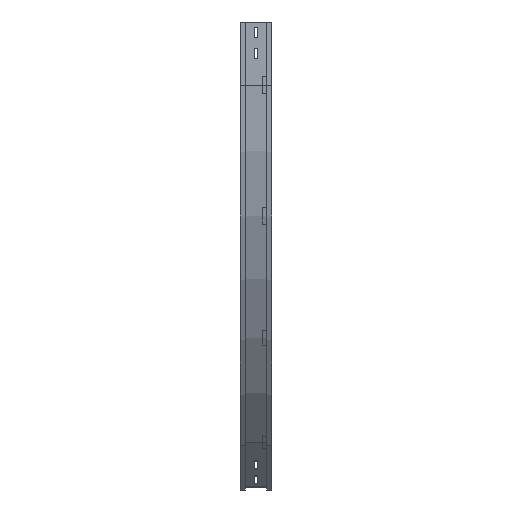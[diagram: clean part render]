
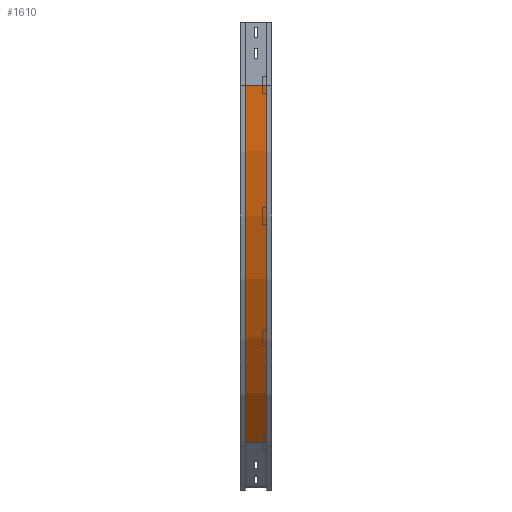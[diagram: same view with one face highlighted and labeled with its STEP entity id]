
A CAD part, left-side view. The second image highlights one B-rep face of the part: STEP entity #1610.
In plain terms, the highlighted cylindrical face has radius 1200 mm (diameter 2400 mm), a partial arc.
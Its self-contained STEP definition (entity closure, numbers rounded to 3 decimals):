
#78 = CARTESIAN_POINT ( 'NONE',  ( 360.472, 12., -998.528 ) ) ;
#236 = DIRECTION ( 'NONE',  ( 0., -1., 0. ) ) ;
#266 = LINE ( 'NONE', #848, #1447 ) ;
#349 = CARTESIAN_POINT ( 'NONE',  ( 360.472, 63., -998.528 ) ) ;
#384 = VERTEX_POINT ( 'NONE', #349 ) ;
#468 = FACE_OUTER_BOUND ( 'NONE', #2298, .T. ) ;
#470 = DIRECTION ( 'NONE',  ( -1., 0., 0. ) ) ;
#549 = LINE ( 'NONE', #2865, #2646 ) ;
#640 = CARTESIAN_POINT ( 'NONE',  ( 9., 63., -150. ) ) ;
#736 = DIRECTION ( 'NONE',  ( 0., 0., -1. ) ) ;
#737 = CARTESIAN_POINT ( 'NONE',  ( 1209., 12., -150. ) ) ;
#848 = CARTESIAN_POINT ( 'NONE',  ( 360.472, 12., -998.528 ) ) ;
#1184 = CARTESIAN_POINT ( 'NONE',  ( 9., 12., -150. ) ) ;
#1194 = DIRECTION ( 'NONE',  ( -1., 0., 0. ) ) ;
#1334 = ORIENTED_EDGE ( 'NONE', *, *, #2657, .T. ) ;
#1397 = AXIS2_PLACEMENT_3D ( 'NONE', #737, #2291, #470 ) ;
#1447 = VECTOR ( 'NONE', #3216, 1000. ) ;
#1573 = ORIENTED_EDGE ( 'NONE', *, *, #3119, .F. ) ;
#1610 = ADVANCED_FACE ( 'NONE', ( #468 ), #2576, .T. ) ;
#1803 = CIRCLE ( 'NONE', #3092, 1200. ) ;
#1908 = VERTEX_POINT ( 'NONE', #78 ) ;
#1995 = VERTEX_POINT ( 'NONE', #640 ) ;
#2291 = DIRECTION ( 'NONE',  ( 0., -1., 0. ) ) ;
#2298 = EDGE_LOOP ( 'NONE', ( #2635, #1573, #2531, #1334 ) ) ;
#2531 = ORIENTED_EDGE ( 'NONE', *, *, #3221, .T. ) ;
#2576 = CYLINDRICAL_SURFACE ( 'NONE', #2903, 1200. ) ;
#2635 = ORIENTED_EDGE ( 'NONE', *, *, #2927, .F. ) ;
#2646 = VECTOR ( 'NONE', #2936, 1000. ) ;
#2657 = EDGE_CURVE ( 'NONE', #384, #1908, #266, .T. ) ;
#2769 = CARTESIAN_POINT ( 'NONE',  ( 1209., 63., -150. ) ) ;
#2771 = VERTEX_POINT ( 'NONE', #1184 ) ;
#2835 = CARTESIAN_POINT ( 'NONE',  ( 1209., 0., -150. ) ) ;
#2865 = CARTESIAN_POINT ( 'NONE',  ( 9., 12., -150. ) ) ;
#2903 = AXIS2_PLACEMENT_3D ( 'NONE', #2835, #236, #736 ) ;
#2927 = EDGE_CURVE ( 'NONE', #2771, #1908, #3034, .T. ) ;
#2936 = DIRECTION ( 'NONE',  ( 0., -1., 0. ) ) ;
#2993 = DIRECTION ( 'NONE',  ( 0., -1., 0. ) ) ;
#3034 = CIRCLE ( 'NONE', #1397, 1200. ) ;
#3092 = AXIS2_PLACEMENT_3D ( 'NONE', #2769, #2993, #1194 ) ;
#3119 = EDGE_CURVE ( 'NONE', #1995, #2771, #549, .T. ) ;
#3216 = DIRECTION ( 'NONE',  ( 0., -1., 0. ) ) ;
#3221 = EDGE_CURVE ( 'NONE', #1995, #384, #1803, .T. ) ;
